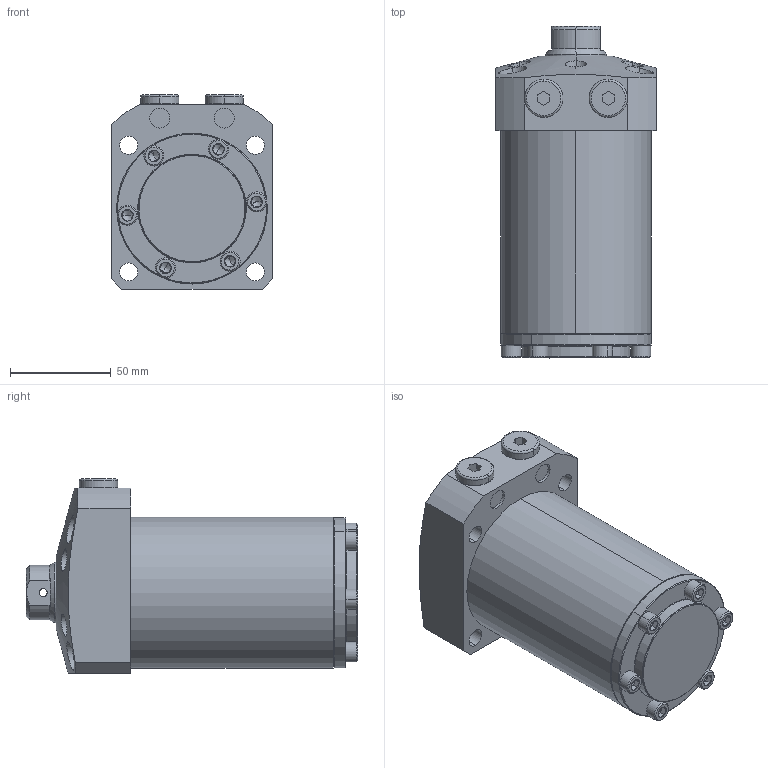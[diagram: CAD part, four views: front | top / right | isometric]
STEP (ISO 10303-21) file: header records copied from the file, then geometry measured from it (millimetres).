
FILE_DESCRIPTION (( 'STEP AP203' ), '1' );
FILE_NAME ('680750-CB-076.step', '2016-11-02T03:27:32', ( 'wxp' ), ( '' ), 'SwSTEP 2.0', 'SolidWorks 2011', '' );
FILE_SCHEMA (( 'CONFIG_CONTROL_DESIGN' ));
Length unit declared in the file: millimetre
Products named in the file (7): 680750-CB-076; 68075-CA-76-6^680750-CB-076; 68075-CA-76-5^680750-CB-076; 68075-CA-76-4^680750-CB-076; 68075-CA-76-3^680750-CB-076; 68075-CA-76-2^680750-CB-076; 68075-CA-76-1^680750-CB-076
Assembly tree (17 placements, depth 2):
  680750-CB-076
    68075-CA-76-5^680750-CB-076  x6
    68075-CA-76-1^680750-CB-076
    68075-CA-76-4^680750-CB-076  x6
    68075-CA-76-3^680750-CB-076
    68075-CA-76-2^680750-CB-076
    68075-CA-76-6^680750-CB-076  x2
Bounding box: 80 x 165 x 96.5 mm (x, y, z)
Volume: 720329.1 mm3; surface area: 97642.6 mm2
Topology: 17 solids, 17 shells, 549 faces, 1043 edges, 547 vertices
Faces by surface type: plane 234, cone 168, cylinder 131, torus 16
Entity records: 7815 total; most frequent: CARTESIAN_POINT 2090, DIRECTION 1075, ORIENTED_EDGE 886, AXIS2_PLACEMENT_3D 449, EDGE_CURVE 443, VERTEX_POINT 265, EDGE_LOOP 260, CIRCLE 216
